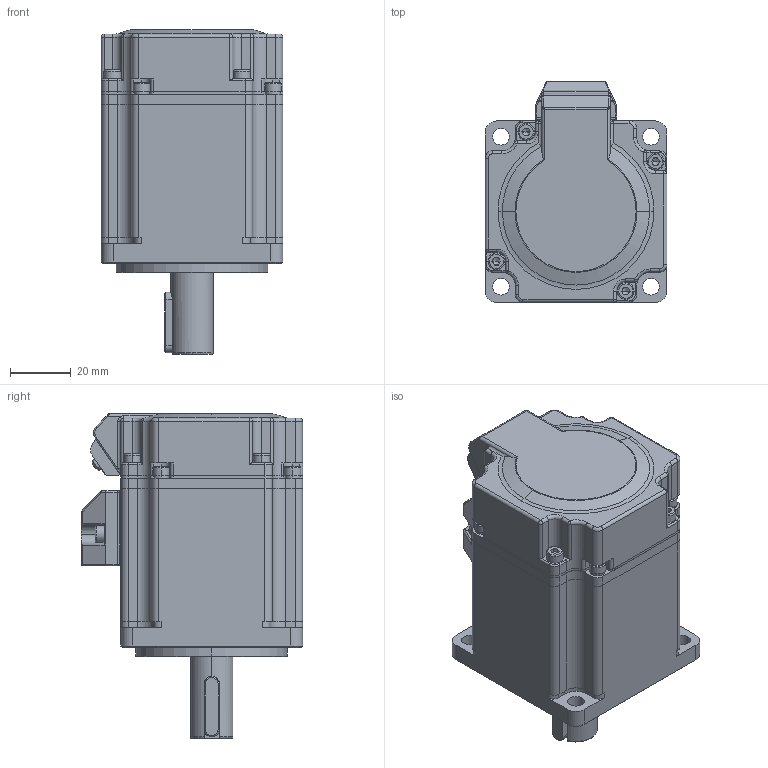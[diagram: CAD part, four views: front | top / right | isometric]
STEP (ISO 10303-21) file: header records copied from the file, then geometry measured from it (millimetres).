
FILE_DESCRIPTION (( 'STEP AP203' ), '1' );
FILE_NAME ('BMR-Z02B06030-ÎÞ±§Õ¢.STEP', '2024-03-23T09:20:12', ( '' ), ( '' ), 'SwSTEP 2.0', 'SolidWorks 2018', '' );
FILE_SCHEMA (( 'CONFIG_CONTROL_DESIGN' ));
Length unit declared in the file: millimetre
Products named in the file (1): BMR-Z02B06030-拸惕掅
Bounding box: 60 x 73 x 107.2 mm (x, y, z)
Volume: 117861.3 mm3; surface area: 76820.8 mm2
Topology: 27 solids, 27 shells, 1214 faces, 2971 edges, 1839 vertices
Faces by surface type: cylinder 480, plane 467, cone 137, torus 104, sphere 18, bspline 8
Entity records: 36395 total; most frequent: CARTESIAN_POINT 7066, DIRECTION 6543, ORIENTED_EDGE 5850, EDGE_CURVE 2925, AXIS2_PLACEMENT_3D 2547, VERTEX_POINT 1839, LINE 1449, VECTOR 1449
